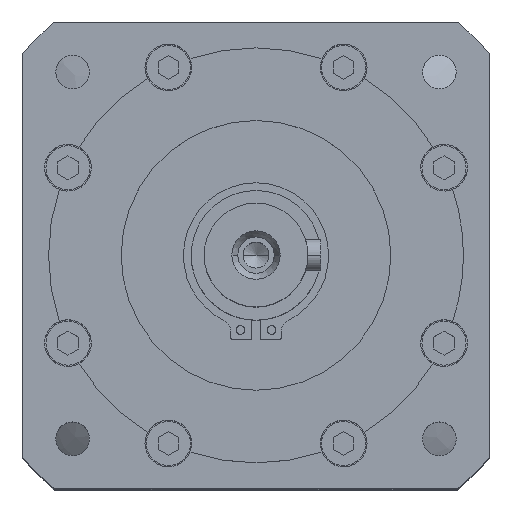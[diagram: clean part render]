
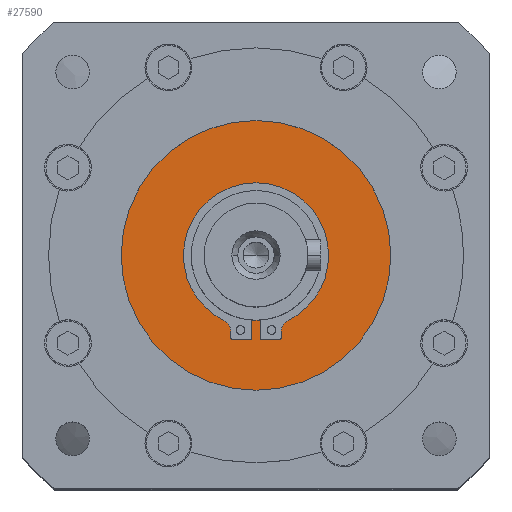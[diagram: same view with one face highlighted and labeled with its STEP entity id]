
A CAD part, top view. The second image highlights one B-rep face of the part: STEP entity #27590.
In plain terms, the highlighted planar face has unit normal (0, 0, 1).
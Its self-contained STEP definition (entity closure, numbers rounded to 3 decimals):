
#725 = LINE ( 'NONE', #10822, #23071 ) ;
#1111 = AXIS2_PLACEMENT_3D ( 'NONE', #27361, #27239, #27094 ) ;
#1605 = CARTESIAN_POINT ( 'NONE',  ( -4.35, -15.771, -2.5 ) ) ;
#1940 = DIRECTION ( 'NONE',  ( 0., -1., 0. ) ) ;
#1952 = FACE_OUTER_BOUND ( 'NONE', #26781, .T. ) ;
#2468 = EDGE_CURVE ( 'NONE', #3810, #17961, #31770, .T. ) ;
#3019 = DIRECTION ( 'NONE',  ( 0., 0., 1. ) ) ;
#3034 = DIRECTION ( 'NONE',  ( -1., 0., 0. ) ) ;
#3738 = EDGE_CURVE ( 'NONE', #10352, #6426, #23538, .T. ) ;
#3810 = VERTEX_POINT ( 'NONE', #22165 ) ;
#4418 = ORIENTED_EDGE ( 'NONE', *, *, #10538, .F. ) ;
#4565 = DIRECTION ( 'NONE',  ( -1., 0., 0. ) ) ;
#4700 = CARTESIAN_POINT ( 'NONE',  ( 6.236, -12.534, -2.5 ) ) ;
#4861 = DIRECTION ( 'NONE',  ( 0., 0., -1. ) ) ;
#5909 = VERTEX_POINT ( 'NONE', #23102 ) ;
#6077 = VECTOR ( 'NONE', #1940, 1000. ) ;
#6371 = CARTESIAN_POINT ( 'NONE',  ( -4.85, -14.773, -2.5 ) ) ;
#6426 = VERTEX_POINT ( 'NONE', #14711 ) ;
#6611 = CARTESIAN_POINT ( 'NONE',  ( -0.85, -12.471, -2.5 ) ) ;
#6910 = ORIENTED_EDGE ( 'NONE', *, *, #15220, .F. ) ;
#6923 = CIRCLE ( 'NONE', #17914, 14. ) ;
#7281 = VECTOR ( 'NONE', #14433, 1000. ) ;
#7367 = DIRECTION ( 'NONE',  ( 0., 0., 1. ) ) ;
#7438 = DIRECTION ( 'NONE',  ( -1., 0., 0. ) ) ;
#7473 = DIRECTION ( 'NONE',  ( 0., 0., 1. ) ) ;
#7482 = CARTESIAN_POINT ( 'NONE',  ( 0., 0., -2.5 ) ) ;
#7696 = CARTESIAN_POINT ( 'NONE',  ( -4.85, 0., -2.5 ) ) ;
#8031 = VERTEX_POINT ( 'NONE', #6371 ) ;
#8961 = CIRCLE ( 'NONE', #21101, 12.5 ) ;
#8995 = ORIENTED_EDGE ( 'NONE', *, *, #31132, .F. ) ;
#9241 = ORIENTED_EDGE ( 'NONE', *, *, #25737, .T. ) ;
#9868 = EDGE_CURVE ( 'NONE', #37285, #30325, #6923, .T. ) ;
#10080 = VERTEX_POINT ( 'NONE', #4700 ) ;
#10298 = PLANE ( 'NONE',  #23176 ) ;
#10352 = VERTEX_POINT ( 'NONE', #38627 ) ;
#10538 = EDGE_CURVE ( 'NONE', #20981, #10080, #29455, .T. ) ;
#10601 = CARTESIAN_POINT ( 'NONE',  ( 0., -16.271, -2.5 ) ) ;
#10681 = DIRECTION ( 'NONE',  ( 0., 1., 0. ) ) ;
#10822 = CARTESIAN_POINT ( 'NONE',  ( 4.85, 0., -2.5 ) ) ;
#10896 = EDGE_LOOP ( 'NONE', ( #26036, #33857, #37463, #15532, #6910, #29829, #4418, #18615, #37810, #16606, #23731, #24112, #35299, #8995 ) ) ;
#10985 = CARTESIAN_POINT ( 'NONE',  ( 0.85, -16.271, -2.5 ) ) ;
#12243 = AXIS2_PLACEMENT_3D ( 'NONE', #21400, #4861, #3034 ) ;
#13075 = DIRECTION ( 'NONE',  ( 0., 0., -1. ) ) ;
#13292 = CARTESIAN_POINT ( 'NONE',  ( -4.85, -15.771, -2.5 ) ) ;
#13393 = DIRECTION ( 'NONE',  ( -1., 0., 0. ) ) ;
#13697 = DIRECTION ( 'NONE',  ( 1., 0., 0. ) ) ;
#14195 = LINE ( 'NONE', #7696, #6077 ) ;
#14264 = AXIS2_PLACEMENT_3D ( 'NONE', #1605, #22894, #4565 ) ;
#14382 = CARTESIAN_POINT ( 'NONE',  ( 0.85, 0., -2.5 ) ) ;
#14431 = LINE ( 'NONE', #32306, #28862 ) ;
#14433 = DIRECTION ( 'NONE',  ( 0., -1., 0. ) ) ;
#14711 = CARTESIAN_POINT ( 'NONE',  ( 26., 0., -2.5 ) ) ;
#15011 = LINE ( 'NONE', #32354, #22251 ) ;
#15220 = EDGE_CURVE ( 'NONE', #5909, #37285, #16392, .T. ) ;
#15268 = VERTEX_POINT ( 'NONE', #26346 ) ;
#15532 = ORIENTED_EDGE ( 'NONE', *, *, #9868, .F. ) ;
#15678 = DIRECTION ( 'NONE',  ( 0., 0., 1. ) ) ;
#15914 = VERTEX_POINT ( 'NONE', #13292 ) ;
#15980 = VECTOR ( 'NONE', #13697, 1000. ) ;
#16065 = CARTESIAN_POINT ( 'NONE',  ( -6.236, -12.534, -2.5 ) ) ;
#16392 = CIRCLE ( 'NONE', #24235, 14. ) ;
#16606 = ORIENTED_EDGE ( 'NONE', *, *, #32705, .F. ) ;
#16978 = ORIENTED_EDGE ( 'NONE', *, *, #3738, .T. ) ;
#17914 = AXIS2_PLACEMENT_3D ( 'NONE', #7482, #7473, #7438 ) ;
#17961 = VERTEX_POINT ( 'NONE', #10985 ) ;
#17981 = EDGE_CURVE ( 'NONE', #32350, #20981, #725, .T. ) ;
#18078 = FACE_BOUND ( 'NONE', #10896, .T. ) ;
#18352 = DIRECTION ( 'NONE',  ( 0., 0., 1. ) ) ;
#18511 = EDGE_CURVE ( 'NONE', #28284, #32350, #26849, .T. ) ;
#18615 = ORIENTED_EDGE ( 'NONE', *, *, #17981, .F. ) ;
#18967 = CARTESIAN_POINT ( 'NONE',  ( 4.35, -15.771, -2.5 ) ) ;
#19516 = CARTESIAN_POINT ( 'NONE',  ( 4.85, -15.771, -2.5 ) ) ;
#20981 = VERTEX_POINT ( 'NONE', #30734 ) ;
#21020 = AXIS2_PLACEMENT_3D ( 'NONE', #21343, #3019, #24443 ) ;
#21101 = AXIS2_PLACEMENT_3D ( 'NONE', #25770, #7367, #28826 ) ;
#21343 = CARTESIAN_POINT ( 'NONE',  ( 0., 0., -2.5 ) ) ;
#21400 = CARTESIAN_POINT ( 'NONE',  ( 7.35, -14.773, -2.5 ) ) ;
#21500 = AXIS2_PLACEMENT_3D ( 'NONE', #34073, #15678, #37173 ) ;
#21566 = EDGE_CURVE ( 'NONE', #30325, #8031, #27156, .T. ) ;
#22165 = CARTESIAN_POINT ( 'NONE',  ( 0.85, -12.471, -2.5 ) ) ;
#22251 = VECTOR ( 'NONE', #26219, 1000. ) ;
#22505 = CIRCLE ( 'NONE', #14264, 0.5 ) ;
#22894 = DIRECTION ( 'NONE',  ( 0., 0., 1. ) ) ;
#23071 = VECTOR ( 'NONE', #10681, 1000. ) ;
#23102 = CARTESIAN_POINT ( 'NONE',  ( 14., 0., -2.5 ) ) ;
#23176 = AXIS2_PLACEMENT_3D ( 'NONE', #28439, #31795, #13393 ) ;
#23538 = CIRCLE ( 'NONE', #1111, 26. ) ;
#23631 = EDGE_CURVE ( 'NONE', #10080, #5909, #38107, .T. ) ;
#23731 = ORIENTED_EDGE ( 'NONE', *, *, #2468, .F. ) ;
#24112 = ORIENTED_EDGE ( 'NONE', *, *, #27622, .F. ) ;
#24235 = AXIS2_PLACEMENT_3D ( 'NONE', #27844, #27798, #27794 ) ;
#24443 = DIRECTION ( 'NONE',  ( 1., 0., 0. ) ) ;
#25737 = EDGE_CURVE ( 'NONE', #6426, #10352, #29198, .T. ) ;
#25770 = CARTESIAN_POINT ( 'NONE',  ( 0., 0., -2.5 ) ) ;
#26036 = ORIENTED_EDGE ( 'NONE', *, *, #33171, .F. ) ;
#26219 = DIRECTION ( 'NONE',  ( 0., 1., 0. ) ) ;
#26346 = CARTESIAN_POINT ( 'NONE',  ( -4.35, -16.271, -2.5 ) ) ;
#26781 = EDGE_LOOP ( 'NONE', ( #9241, #16978 ) ) ;
#26849 = CIRCLE ( 'NONE', #27535, 0.5 ) ;
#27094 = DIRECTION ( 'NONE',  ( 1., 0., 0. ) ) ;
#27156 = CIRCLE ( 'NONE', #37135, 2.5 ) ;
#27239 = DIRECTION ( 'NONE',  ( 0., 0., 1. ) ) ;
#27361 = CARTESIAN_POINT ( 'NONE',  ( 0., 0., -2.5 ) ) ;
#27535 = AXIS2_PLACEMENT_3D ( 'NONE', #18967, #18352, #36361 ) ;
#27590 = ADVANCED_FACE ( 'NONE', ( #1952, #18078 ), #10298, .F. ) ;
#27622 = EDGE_CURVE ( 'NONE', #33466, #3810, #8961, .T. ) ;
#27794 = DIRECTION ( 'NONE',  ( -1., 0., 0. ) ) ;
#27798 = DIRECTION ( 'NONE',  ( 0., 0., 1. ) ) ;
#27844 = CARTESIAN_POINT ( 'NONE',  ( 0., 0., -2.5 ) ) ;
#27858 = CARTESIAN_POINT ( 'NONE',  ( -0.85, -16.271, -2.5 ) ) ;
#28284 = VERTEX_POINT ( 'NONE', #34064 ) ;
#28439 = CARTESIAN_POINT ( 'NONE',  ( 0., 0., -2.5 ) ) ;
#28826 = DIRECTION ( 'NONE',  ( -1., 0., 0. ) ) ;
#28862 = VECTOR ( 'NONE', #38352, 1000. ) ;
#29198 = CIRCLE ( 'NONE', #21020, 26. ) ;
#29455 = CIRCLE ( 'NONE', #12243, 2.5 ) ;
#29829 = ORIENTED_EDGE ( 'NONE', *, *, #23631, .F. ) ;
#30325 = VERTEX_POINT ( 'NONE', #16065 ) ;
#30734 = CARTESIAN_POINT ( 'NONE',  ( 4.85, -14.773, -2.5 ) ) ;
#31132 = EDGE_CURVE ( 'NONE', #15268, #38499, #32331, .T. ) ;
#31195 = EDGE_CURVE ( 'NONE', #38499, #33466, #15011, .T. ) ;
#31495 = CARTESIAN_POINT ( 'NONE',  ( -7.35, -14.773, -2.5 ) ) ;
#31770 = LINE ( 'NONE', #14382, #7281 ) ;
#31795 = DIRECTION ( 'NONE',  ( 0., 0., -1. ) ) ;
#32306 = CARTESIAN_POINT ( 'NONE',  ( 0., -16.271, -2.5 ) ) ;
#32331 = LINE ( 'NONE', #10601, #15980 ) ;
#32350 = VERTEX_POINT ( 'NONE', #19516 ) ;
#32354 = CARTESIAN_POINT ( 'NONE',  ( -0.85, 0., -2.5 ) ) ;
#32705 = EDGE_CURVE ( 'NONE', #17961, #28284, #14431, .T. ) ;
#33171 = EDGE_CURVE ( 'NONE', #15914, #15268, #22505, .T. ) ;
#33466 = VERTEX_POINT ( 'NONE', #6611 ) ;
#33857 = ORIENTED_EDGE ( 'NONE', *, *, #35199, .F. ) ;
#34064 = CARTESIAN_POINT ( 'NONE',  ( 4.35, -16.271, -2.5 ) ) ;
#34073 = CARTESIAN_POINT ( 'NONE',  ( 0., 0., -2.5 ) ) ;
#34562 = DIRECTION ( 'NONE',  ( -1., 0., 0. ) ) ;
#35199 = EDGE_CURVE ( 'NONE', #8031, #15914, #14195, .T. ) ;
#35299 = ORIENTED_EDGE ( 'NONE', *, *, #31195, .F. ) ;
#36361 = DIRECTION ( 'NONE',  ( -1., 0., 0. ) ) ;
#37135 = AXIS2_PLACEMENT_3D ( 'NONE', #31495, #13075, #34562 ) ;
#37173 = DIRECTION ( 'NONE',  ( -1., 0., 0. ) ) ;
#37285 = VERTEX_POINT ( 'NONE', #39340 ) ;
#37463 = ORIENTED_EDGE ( 'NONE', *, *, #21566, .F. ) ;
#37810 = ORIENTED_EDGE ( 'NONE', *, *, #18511, .F. ) ;
#38107 = CIRCLE ( 'NONE', #21500, 14. ) ;
#38352 = DIRECTION ( 'NONE',  ( 1., 0., 0. ) ) ;
#38499 = VERTEX_POINT ( 'NONE', #27858 ) ;
#38627 = CARTESIAN_POINT ( 'NONE',  ( -26., 0., -2.5 ) ) ;
#39340 = CARTESIAN_POINT ( 'NONE',  ( -14., 0., -2.5 ) ) ;
